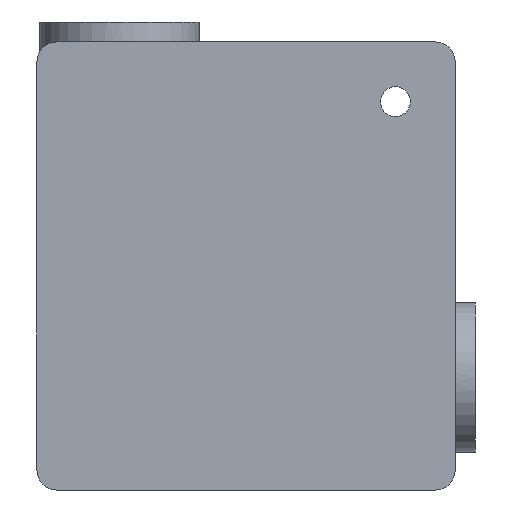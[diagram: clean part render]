
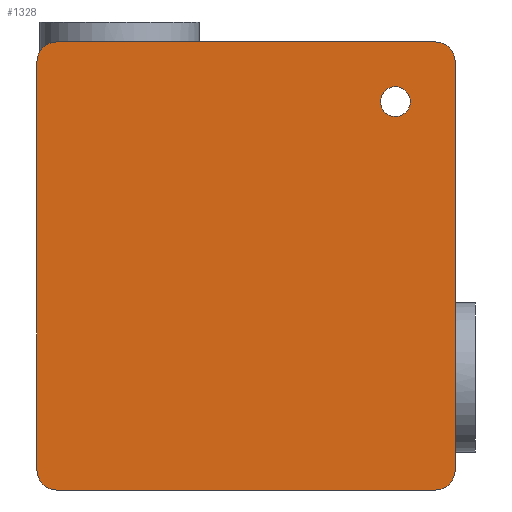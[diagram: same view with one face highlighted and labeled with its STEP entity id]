
A CAD part, front view. The second image highlights one B-rep face of the part: STEP entity #1328.
In plain terms, the highlighted planar face has unit normal (0, -1, 0).
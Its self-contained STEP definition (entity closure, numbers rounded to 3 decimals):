
#6 = LINE ( 'NONE', #294, #1150 ) ;
#8 = VERTEX_POINT ( 'NONE', #1751 ) ;
#31 = DIRECTION ( 'NONE',  ( 0., 0., 1. ) ) ;
#45 = CARTESIAN_POINT ( 'NONE',  ( 95., 0., 102.5 ) ) ;
#63 = FACE_OUTER_BOUND ( 'NONE', #888, .T. ) ;
#72 = DIRECTION ( 'NONE',  ( 0., 1., 0. ) ) ;
#73 = LINE ( 'NONE', #2051, #1536 ) ;
#83 = VECTOR ( 'NONE', #795, 1000. ) ;
#92 = ORIENTED_EDGE ( 'NONE', *, *, #1821, .T. ) ;
#110 = EDGE_CURVE ( 'NONE', #997, #1693, #6, .T. ) ;
#119 = EDGE_CURVE ( 'NONE', #1995, #601, #1482, .T. ) ;
#170 = EDGE_CURVE ( 'NONE', #1255, #601, #1726, .T. ) ;
#172 = CARTESIAN_POINT ( 'NONE',  ( 105., 0., 112.5 ) ) ;
#190 = ORIENTED_EDGE ( 'NONE', *, *, #170, .T. ) ;
#193 = CARTESIAN_POINT ( 'NONE',  ( -95., 0., 112.5 ) ) ;
#221 = EDGE_CURVE ( 'NONE', #1255, #2045, #73, .T. ) ;
#225 = FACE_BOUND ( 'NONE', #2004, .T. ) ;
#264 = EDGE_CURVE ( 'NONE', #997, #1554, #522, .T. ) ;
#294 = CARTESIAN_POINT ( 'NONE',  ( 105., 0., -112.5 ) ) ;
#349 = EDGE_CURVE ( 'NONE', #8, #2045, #661, .T. ) ;
#350 = AXIS2_PLACEMENT_3D ( 'NONE', #45, #1529, #1186 ) ;
#364 = CARTESIAN_POINT ( 'NONE',  ( 0., 0., 0. ) ) ;
#382 = AXIS2_PLACEMENT_3D ( 'NONE', #1247, #1389, #1730 ) ;
#400 = DIRECTION ( 'NONE',  ( 0., 1., 0. ) ) ;
#434 = ORIENTED_EDGE ( 'NONE', *, *, #486, .T. ) ;
#437 = CARTESIAN_POINT ( 'NONE',  ( 75., 0., 82.5 ) ) ;
#438 = DIRECTION ( 'NONE',  ( 0., 0., 1. ) ) ;
#486 = EDGE_CURVE ( 'NONE', #1995, #1693, #1506, .T. ) ;
#522 = CIRCLE ( 'NONE', #1667, 10. ) ;
#601 = VERTEX_POINT ( 'NONE', #809 ) ;
#661 = CIRCLE ( 'NONE', #350, 10. ) ;
#767 = AXIS2_PLACEMENT_3D ( 'NONE', #1085, #1274, #438 ) ;
#768 = ORIENTED_EDGE ( 'NONE', *, *, #110, .F. ) ;
#782 = CARTESIAN_POINT ( 'NONE',  ( -105., 0., 112.5 ) ) ;
#795 = DIRECTION ( 'NONE',  ( 0., 0., 1. ) ) ;
#809 = CARTESIAN_POINT ( 'NONE',  ( -105., 0., 102.5 ) ) ;
#810 = ORIENTED_EDGE ( 'NONE', *, *, #119, .F. ) ;
#826 = CARTESIAN_POINT ( 'NONE',  ( 95., 0., 112.5 ) ) ;
#836 = DIRECTION ( 'NONE',  ( 0., 0., -1. ) ) ;
#852 = ORIENTED_EDGE ( 'NONE', *, *, #1310, .F. ) ;
#888 = EDGE_LOOP ( 'NONE', ( #810, #434, #768, #1680, #852, #1880, #1346, #190 ) ) ;
#934 = EDGE_CURVE ( 'NONE', #1830, #1987, #1736, .T. ) ;
#990 = AXIS2_PLACEMENT_3D ( 'NONE', #437, #400, #1280 ) ;
#997 = VERTEX_POINT ( 'NONE', #1586 ) ;
#998 = DIRECTION ( 'NONE',  ( 0., -1., 0. ) ) ;
#1060 = CARTESIAN_POINT ( 'NONE',  ( -95., 0., -112.5 ) ) ;
#1067 = CARTESIAN_POINT ( 'NONE',  ( 95., 0., -102.5 ) ) ;
#1085 = CARTESIAN_POINT ( 'NONE',  ( -95., 0., -102.5 ) ) ;
#1099 = CARTESIAN_POINT ( 'NONE',  ( 75., 0., 75. ) ) ;
#1125 = CIRCLE ( 'NONE', #990, 7.5 ) ;
#1150 = VECTOR ( 'NONE', #1322, 1000. ) ;
#1186 = DIRECTION ( 'NONE',  ( 0., 0., 1. ) ) ;
#1247 = CARTESIAN_POINT ( 'NONE',  ( 75., 0., 82.5 ) ) ;
#1255 = VERTEX_POINT ( 'NONE', #193 ) ;
#1256 = DIRECTION ( 'NONE',  ( 1., 0., 0. ) ) ;
#1274 = DIRECTION ( 'NONE',  ( 0., -1., 0. ) ) ;
#1280 = DIRECTION ( 'NONE',  ( 0., 0., 1. ) ) ;
#1310 = EDGE_CURVE ( 'NONE', #8, #1554, #1659, .T. ) ;
#1318 = CARTESIAN_POINT ( 'NONE',  ( 75., 0., 90. ) ) ;
#1322 = DIRECTION ( 'NONE',  ( -1., 0., 0. ) ) ;
#1328 = ADVANCED_FACE ( 'NONE', ( #225, #63 ), #2049, .F. ) ;
#1346 = ORIENTED_EDGE ( 'NONE', *, *, #221, .F. ) ;
#1389 = DIRECTION ( 'NONE',  ( 0., 1., 0. ) ) ;
#1482 = LINE ( 'NONE', #782, #83 ) ;
#1506 = CIRCLE ( 'NONE', #767, 10. ) ;
#1512 = DIRECTION ( 'NONE',  ( 0., -1., 0. ) ) ;
#1529 = DIRECTION ( 'NONE',  ( 0., -1., 0. ) ) ;
#1536 = VECTOR ( 'NONE', #1256, 1000. ) ;
#1554 = VERTEX_POINT ( 'NONE', #1734 ) ;
#1556 = DIRECTION ( 'NONE',  ( 0., 0., 1. ) ) ;
#1583 = ORIENTED_EDGE ( 'NONE', *, *, #934, .T. ) ;
#1586 = CARTESIAN_POINT ( 'NONE',  ( 95., 0., -112.5 ) ) ;
#1659 = LINE ( 'NONE', #172, #1973 ) ;
#1667 = AXIS2_PLACEMENT_3D ( 'NONE', #1067, #998, #1798 ) ;
#1680 = ORIENTED_EDGE ( 'NONE', *, *, #264, .T. ) ;
#1693 = VERTEX_POINT ( 'NONE', #1060 ) ;
#1726 = CIRCLE ( 'NONE', #2105, 10. ) ;
#1730 = DIRECTION ( 'NONE',  ( 0., 0., 1. ) ) ;
#1734 = CARTESIAN_POINT ( 'NONE',  ( 105., 0., -102.5 ) ) ;
#1736 = CIRCLE ( 'NONE', #382, 7.5 ) ;
#1751 = CARTESIAN_POINT ( 'NONE',  ( 105., 0., 102.5 ) ) ;
#1798 = DIRECTION ( 'NONE',  ( 0., 0., 1. ) ) ;
#1821 = EDGE_CURVE ( 'NONE', #1987, #1830, #1125, .T. ) ;
#1830 = VERTEX_POINT ( 'NONE', #1099 ) ;
#1833 = CARTESIAN_POINT ( 'NONE',  ( -95., 0., 102.5 ) ) ;
#1880 = ORIENTED_EDGE ( 'NONE', *, *, #349, .T. ) ;
#1973 = VECTOR ( 'NONE', #836, 1000. ) ;
#1987 = VERTEX_POINT ( 'NONE', #1318 ) ;
#1995 = VERTEX_POINT ( 'NONE', #2121 ) ;
#2004 = EDGE_LOOP ( 'NONE', ( #92, #1583 ) ) ;
#2005 = AXIS2_PLACEMENT_3D ( 'NONE', #364, #72, #1556 ) ;
#2045 = VERTEX_POINT ( 'NONE', #826 ) ;
#2049 = PLANE ( 'NONE',  #2005 ) ;
#2051 = CARTESIAN_POINT ( 'NONE',  ( 105., 0., 112.5 ) ) ;
#2105 = AXIS2_PLACEMENT_3D ( 'NONE', #1833, #1512, #31 ) ;
#2121 = CARTESIAN_POINT ( 'NONE',  ( -105., 0., -102.5 ) ) ;
